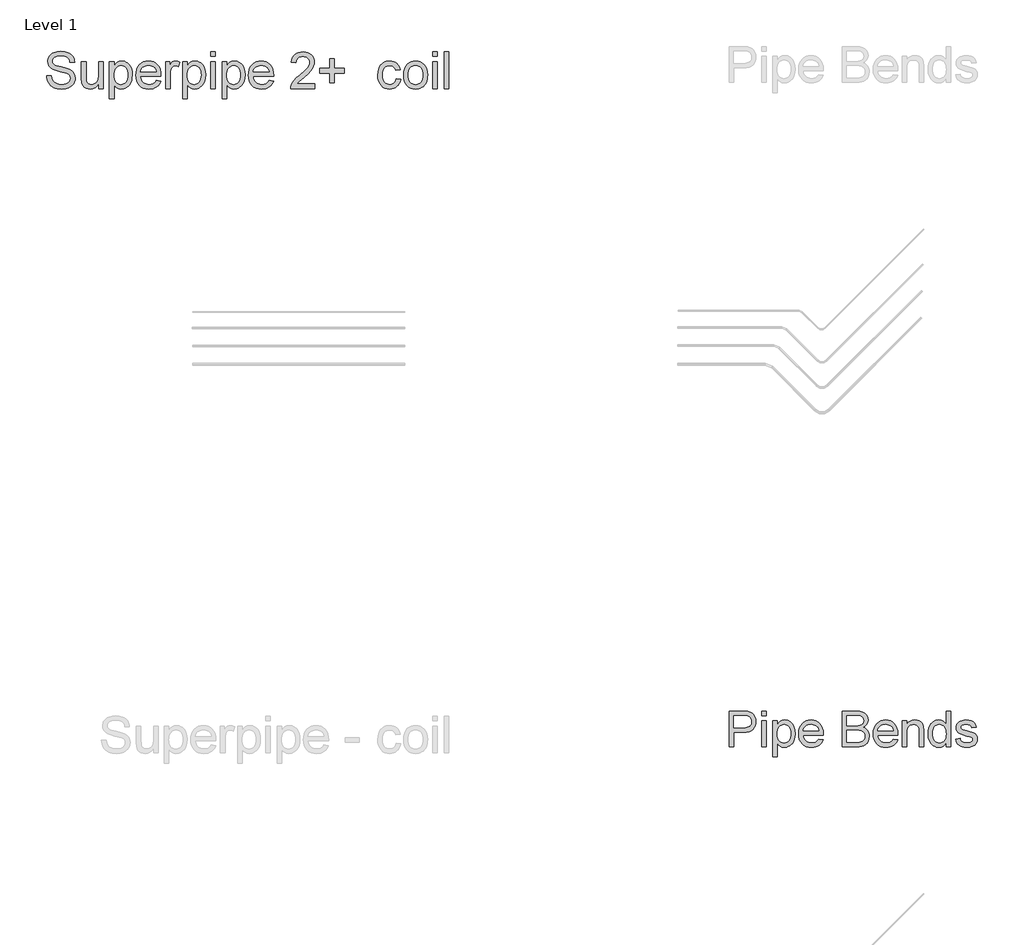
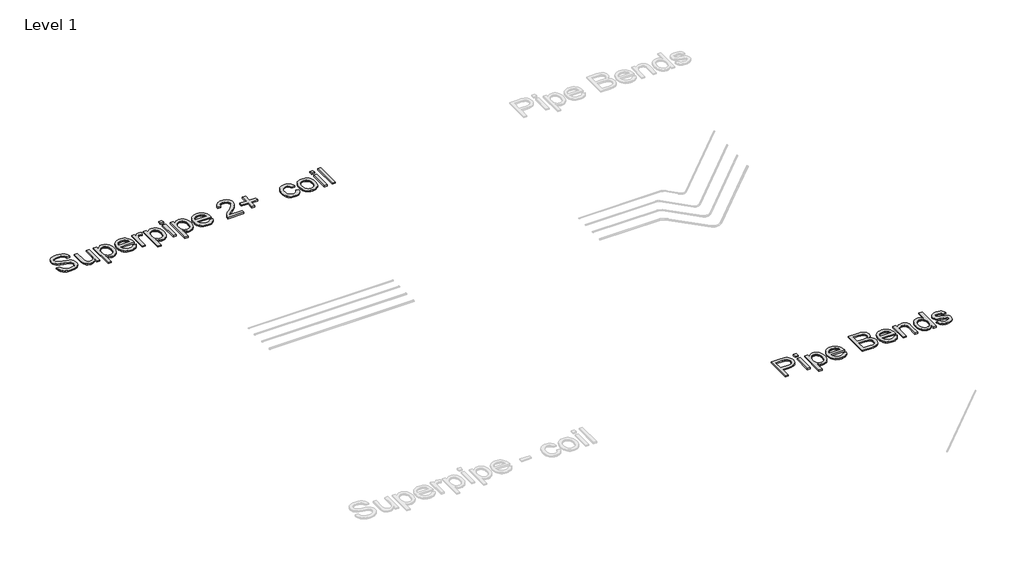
# One storey, part 10 of 58: 2 proxies.
"""IFC4 building model written with IfcOpenShell, lengths in millimetres."""

import ifcopenshell
import ifcopenshell.guid

model = None  # the IFC model being written
_history = None  # IfcOwnerHistory: only IFC2X3 demands one
_inside = {}  # id of a spatial element -> (the spatial element, [elements in it])
_under = {}  # id of a project, library or spatial element -> (it, [spatial elements below it])
_declared = {}  # id of a project -> (the project, [libraries it declares])
_typed = {}  # id of a type object -> (the type object, [elements of that type])
_made_of = {}  # id of a material, layer set ... -> (it, [elements and type objects made of it])


def new_model(schema):
    """Start an empty IFC model of exactly this schema.

    Asked for "IFC4X3", IfcOpenShell would pick the latest addendum, in which some entities
    have other attributes; the version numbers below select the first issue.
    IFC2X3 requires an IfcOwnerHistory on every rooted entity: one is made here for all.
    """
    global model, _history
    if schema == "IFC4X3":
        model = ifcopenshell.file(schema_version=(4, 3, 0, 0))
    else:
        model = ifcopenshell.file(schema=schema)
    _inside.clear()
    _under.clear()
    _declared.clear()
    _typed.clear()
    _made_of.clear()
    _history = None
    if model.schema == "IFC2X3":
        org = make("IfcOrganization", Name="unknown")
        user = make(
            "IfcPersonAndOrganization",
            ThePerson=make("IfcPerson", FamilyName="unknown"),
            TheOrganization=org,
        )
        app = make(
            "IfcApplication",
            ApplicationDeveloper=org,
            Version="unknown",
            ApplicationFullName="unknown",
            ApplicationIdentifier="unknown",
        )
        _history = make(
            "IfcOwnerHistory",
            OwningUser=user,
            OwningApplication=app,
            ChangeAction="ADDED",
            CreationDate=0,
        )
    return model


def make(cls, **values):
    """One entity of the class cls with the attributes given. An attribute that is None is left unset."""
    return model.create_entity(
        cls, **{name: value for name, value in values.items() if value is not None}
    )


def rooted(cls, **values):
    """An entity with a GlobalId (a new one), such as an element, a storey or a relation."""
    return make(cls, GlobalId=ifcopenshell.guid.new(), OwnerHistory=_history, **values)


def si_unit(unit_type, name, prefix=None):
    """IfcSIUnit, for example si_unit("LENGTHUNIT", "METRE", prefix="MILLI")."""
    return make("IfcSIUnit", UnitType=unit_type, Prefix=prefix, Name=name)


def assignment(units):
    """IfcUnitAssignment: the units of a project."""
    return None if units is None else make("IfcUnitAssignment", Units=units)


def point(xyz):
    """IfcCartesianPoint."""
    return None if xyz is None else make("IfcCartesianPoint", Coordinates=xyz)


def direction(xyz):
    """IfcDirection."""
    return None if xyz is None else make("IfcDirection", DirectionRatios=xyz)


def frame(location, z_axis=None, x_axis=None):
    """IfcAxis2Placement3D, a coordinate frame: its origin and axes. An axis left out is left unset."""
    return make(
        "IfcAxis2Placement3D",
        Location=point(location),
        Axis=direction(z_axis),
        RefDirection=direction(x_axis),
    )


def origin():
    """The frame at (0, 0, 0) with its axes left unset."""
    return frame((0.0, 0.0, 0.0))


def place(relative_to, where):
    """IfcLocalPlacement: puts the frame where relative to a parent placement (None: the world)."""
    return make(
        "IfcLocalPlacement", PlacementRelTo=relative_to, RelativePlacement=where
    )


def context(
    kind, dimensions, precision=None, world=None, true_north=None, identifier=None
):
    """IfcGeometricRepresentationContext, for example the 3D "Model" context."""
    return make(
        "IfcGeometricRepresentationContext",
        ContextIdentifier=identifier,
        ContextType=kind,
        CoordinateSpaceDimension=dimensions,
        Precision=precision,
        WorldCoordinateSystem=world,
        TrueNorth=true_north,
    )


def project(units=None, contexts=None):
    """IfcProject with its units and contexts."""
    return rooted(
        "IfcProject",
        Name="project",
        RepresentationContexts=contexts,
        UnitsInContext=assignment(units),
    )


def spatial(cls, under=None, at=None, **own):
    """A site, building, storey or space (cls), placed at a placement, below another one or the project."""
    s = rooted(cls, ObjectPlacement=at, **own)
    if under is not None:
        _under.setdefault(under.id(), (under, []))[1].append(s)
    return s


def polyline(points):
    """IfcPolyline through the points."""
    return make("IfcPolyline", Points=[point(p) for p in points])


def outline(outer, holes=None, kind="AREA"):
    """IfcArbitraryClosedProfileDef: a profile drawn as a closed curve; with holes, ...WithVoids."""
    if holes is None:
        return make("IfcArbitraryClosedProfileDef", ProfileType=kind, OuterCurve=outer)
    return make(
        "IfcArbitraryProfileDefWithVoids",
        ProfileType=kind,
        OuterCurve=outer,
        InnerCurves=holes,
    )


def extrude(swept, where, along, depth):
    """IfcExtrudedAreaSolid: the profile swept, set in the frame where, extruded along a direction by depth."""
    return make(
        "IfcExtrudedAreaSolid",
        SweptArea=swept,
        Position=where,
        ExtrudedDirection=direction(along),
        Depth=depth,
    )


def shape(context_of_items, identifier, shape_type, items):
    """IfcShapeRepresentation: the items that make up one representation, for example the "Body"."""
    return make(
        "IfcShapeRepresentation",
        ContextOfItems=context_of_items,
        RepresentationIdentifier=identifier,
        RepresentationType=shape_type,
        Items=items,
    )


def made_of(thing, what):
    """Note that an element or type object is made of a material, layer set ...; save() writes the relation."""
    if what is not None:
        _made_of.setdefault(what.id(), (what, []))[1].append(thing)
    return thing


def element(
    cls,
    number,
    at=None,
    inside=None,
    cuts=None,
    type_object=None,
    material=None,
    context=None,
    identifier="Body",
    shape_type=None,
    held_by="IfcProductDefinitionShape",
    body=None,
    shapes=None,
    **own,
):
    """One element of the class cls, such as IfcWall. Its Tag is "e" and its number.

    at: its placement. inside: the storey or other place that contains it. cuts: it is an
    opening in that element (IfcRelVoidsElement). A single representation is given by context,
    identifier, shape_type and body (its items); several are given by shapes. held_by: the class
    of the entity that holds the representations. save() writes the other relations.
    """
    e = rooted(cls, Tag="e%d" % number, ObjectPlacement=at, **own)
    if body is not None:
        shapes = [shape(context, identifier, shape_type, body)]
    if shapes is not None:
        e.Representation = make(held_by, Representations=shapes)
    if inside is not None:
        _inside.setdefault(inside.id(), (inside, []))[1].append(e)
    if cuts is not None:
        rooted(
            "IfcRelVoidsElement", RelatingBuildingElement=cuts, RelatedOpeningElement=e
        )
    if type_object is not None:
        _typed.setdefault(type_object.id(), (type_object, []))[1].append(e)
    return made_of(e, material)


def aggregate(whole, parts):
    """IfcRelAggregates: a whole, such as a stair, and the parts it consists of."""
    return rooted("IfcRelAggregates", RelatingObject=whole, RelatedObjects=parts)


def save(model, path):
    """Write the relations noted so far, then the file.

    IfcRelAggregates (storeys below a building ...), IfcRelContainedInSpatialStructure (elements
    in a storey), IfcRelDefinesByType, IfcRelAssociatesMaterial and IfcRelDeclares: one each for
    every whole, place, type object, material and project.
    """
    for whole, parts in _under.values():
        aggregate(whole, parts)
    for where, things in _inside.values():
        rooted(
            "IfcRelContainedInSpatialStructure",
            RelatedElements=things,
            RelatingStructure=where,
        )
    for kind, things in _typed.values():
        rooted("IfcRelDefinesByType", RelatedObjects=things, RelatingType=kind)
    for what, things in _made_of.values():
        rooted("IfcRelAssociatesMaterial", RelatedObjects=things, RelatingMaterial=what)
    for by, libraries in _declared.values():
        rooted("IfcRelDeclares", RelatingContext=by, RelatedDefinitions=libraries)
    model.write(path)


model = new_model("IFC4")

# Units and contexts
model_context = context("Model", 3, world=origin())
ifc_project = project(units=[si_unit("LENGTHUNIT", "METRE", prefix="MILLI")], contexts=[model_context])

# Site, building, storey
site = spatial("IfcSite", under=ifc_project)
building = spatial("IfcBuilding", under=site)
storey = spatial("IfcBuildingStorey", under=building, Name="Level 1", Elevation=27.3876384)

# Proxies
placement = place(None, origin())
element("IfcBuildingElementProxy", 1, Name="600mm Arial", ObjectType="600mm Arial", at=placement, inside=storey, context=model_context, shape_type="SweptSolid", body=[
    extrude(outline(polyline([(-16126.3023056, 25980.7797217), (-16050.9600729, 25980.7797217), (-16042.3148461, 25938.969933), (-16026.6798613, 25905.3639127), (-16002.289285, 25878.6924681), (-15967.3772836, 25857.6864061), (-15924.7029722, 25844.0563782), (-15877.0254656, 25839.5130356), (-15835.05013, 25842.9527322), (-15798.2987187, 25853.2718222), (-15768.5186711, 25869.6057828), (-15747.4574269, 25891.0900913), (-15734.931045, 25915.7565791), (-15730.7555843, 25941.6370774), (-15733.8825813, 25966.8553882), (-15743.2635722, 25988.6523964), (-15762.3198595, 26007.2488313), (-15794.4727459, 26022.865422), (-15904.1751569, 26051.633794), (-15976.1880574, 26070.6716873), (-16022.2652773, 26088.7898755), (-16059.7708467, 26114.136945), (-16086.3503209, 26144.8550916), (-16102.1876408, 26180.2821277), (-16107.4667474, 26219.7558658), (-16105.8342711, 26242.192069), (-16100.936842, 26263.8833111), (-16092.7744602, 26284.8295922), (-16081.3471257, 26305.0309123), (-16066.7835973, 26323.6641353), (-16049.2126335, 26339.9061254), (-16028.6342344, 26353.7568825), (-16005.0483999, 26365.2164067), (-15952.0366044, 26380.6122682), (-15893.3594262, 26385.744222), (-15829.7894174, 26380.3731449), (-15774.1656598, 26364.2599135), (-15749.8302658, 26352.2577634), (-15728.474716, 26337.7356216), (-15710.0990103, 26320.6934882), (-15694.7031488, 26301.1313631), (-15682.4066931, 26279.6194635), (-15673.3292049, 26256.7280063), (-15667.4706841, 26232.4569917), (-15664.8311308, 26206.8064196), (-15740.1733634, 26206.8064196), (-15745.2133468, 26230.847508), (-15754.0057264, 26251.7615994), (-15766.5505025, 26269.5486938), (-15782.8476749, 26284.2087914), (-15803.2007462, 26295.6683155), (-15827.9132193, 26303.8536899), (-15856.9850939, 26308.7649145), (-15890.4163702, 26310.4019894), (-15924.9145043, 26308.7833086), (-15954.3910492, 26303.9272663), (-15978.8460048, 26295.8338624), (-15998.2793712, 26284.5030969), (-16013.0866215, 26270.8822661), (-16023.6632289, 26255.9186659), (-16030.0091933, 26239.6122965), (-16032.1245148, 26221.9631578), (-16030.6253957, 26206.7788284), (-16026.1280383, 26193.0108447), (-16018.6324426, 26180.6592068), (-16008.1386087, 26169.7239145), (-15991.6207071, 26159.3680363), (-15965.6114501, 26148.9017935), (-15885.1188695, 26127.6382142), (-15802.051115, 26107.4414927), (-15751.7984345, 26089.8199451), (-15708.8482115, 26062.4863129), (-15692.242938, 26046.4190667), (-15678.884223, 26028.7515339), (-15668.6157168, 26009.5756849), (-15661.2810696, 25988.9834902), (-15655.4133517, 25943.5500638), (-15657.1010104, 25919.9826235), (-15662.1639863, 25897.1049619), (-15670.6022796, 25874.9170791), (-15682.4158902, 25853.418975), (-15697.3978844, 25833.4429827), (-15715.3413287, 25815.8214351), (-15736.2462231, 25800.5543323), (-15760.1125676, 25787.6416743), (-15786.2459848, 25777.3731681), (-15813.9520976, 25770.0385208), (-15874.0824097, 25764.170803), (-15912.6226472, 25765.7526955), (-15947.897932, 25770.4983733), (-15979.9082641, 25778.4078362), (-16008.6536435, 25789.4810842), (-16034.3088141, 25803.7365115), (-16057.04852, 25821.1925122), (-16076.872761, 25841.8490863), (-16093.7815372, 25865.7062336), (-16107.4023681, 25891.9914022), (-16117.3627731, 25919.9320397), (-16123.6627522, 25949.5281462), (-16126.3023056, 25980.7797217)])), frame((0.0, 0.0, 27.3876384), z_axis=(0.0, 0.0, 1.0), x_axis=(1.0, 0.0, 0.0)), (0.0, 0.0, 1.0), 30.0),
    extrude(outline(polyline([(-15269.2844096, 25773.588582), (-15269.2844096, 25849.6665786), (-15296.5444654, 25812.2621768), (-15328.2926816, 25785.5447469), (-15364.5290581, 25769.5142889), (-15405.253595, 25764.170803), (-15441.949824, 25767.9231993), (-15476.1076673, 25779.1803884), (-15504.7656747, 25796.1029601), (-15524.9623962, 25816.8515047), (-15538.555636, 25842.0514213), (-15547.4031979, 25872.3281096), (-15551.8177819, 25942.3728414), (-15551.8177819, 26216.2241986), (-15476.4755493, 26216.2241986), (-15476.4755493, 25977.8366658), (-15475.3351151, 25930.1591592), (-15471.9138125, 25901.0229052), (-15460.932535, 25875.3999242), (-15442.1153709, 25855.9205726), (-15416.7131192, 25843.6149198), (-15385.9765785, 25839.5130356), (-15353.4742042, 25843.7068903), (-15323.0687573, 25856.2884546), (-15297.9975993, 25876.0989), (-15281.4980918, 25901.9793984), (-15272.3378302, 25937.4248286), (-15269.2844096, 25985.9300697), (-15269.2844096, 26216.2241986), (-15193.942177, 26216.2241986), (-15193.942177, 25773.588582), (-15269.2844096, 25773.588582)])), frame((0.0, 0.0, 27.3876384), z_axis=(0.0, 0.0, 1.0), x_axis=(1.0, 0.0, 0.0)), (0.0, 0.0, 1.0), 30.0),
    extrude(outline(polyline([(-15090.3466071, 25604.0685587), (-15090.3466071, 26216.2241986), (-15015.0043745, 26216.2241986), (-15015.0043745, 26142.353494), (-14990.4298572, 26178.7922056), (-14962.912284, 26204.8198568), (-14930.832974, 26220.4364475), (-14892.5732465, 26225.6419777), (-14866.297275, 26223.8209618), (-14841.6215902, 26218.3579142), (-14818.5461921, 26209.2528348), (-14797.0710806, 26196.5057237), (-14777.6653053, 26180.4476746), (-14760.7979159, 26161.4097814), (-14746.4689121, 26139.3920439), (-14734.6782942, 26114.3944624), (-14718.8961566, 26058.8810693), (-14713.6354441, 25998.2909047), (-14719.5767383, 25933.8563732), (-14727.0033561, 25904.1912889), (-14737.400621, 25876.2276587), (-14750.6259787, 25850.6966482), (-14766.536875, 25828.3294229), (-14785.1333098, 25809.1259828), (-14806.4152833, 25793.0863278), (-14829.3389301, 25780.4357857), (-14852.8603852, 25771.3996842), (-14876.9796485, 25765.9780233), (-14901.69672, 25764.170803), (-14936.3328099, 25769.0084512), (-14967.2532916, 25783.5213959), (-14993.7224011, 25805.4287687), (-15015.0043745, 25832.4497013), (-15015.0043745, 25604.0685587), (-15090.3466071, 25604.0685587)]), holes=[polyline([(-15015.0043745, 25991.3747232), (-15012.967228, 25955.0647703), (-15006.8557883, 25923.8315889), (-14996.6700556, 25897.675179), (-14982.4100298, 25876.5955407), (-14965.2437362, 25860.3719447), (-14946.3392001, 25848.7836619), (-14925.6964217, 25841.8306922), (-14903.3154008, 25839.5130356), (-14880.6124832, 25841.9134656), (-14859.5926257, 25849.1147557), (-14840.2558283, 25861.1169057), (-14822.602091, 25877.9199159), (-14807.8914098, 25899.7629093), (-14797.3837803, 25926.8850094), (-14791.0792026, 25959.2862162), (-14788.9776767, 25996.9665295), (-14791.0286188, 26032.9637827), (-14797.1814452, 26064.1417818), (-14807.4361558, 26090.5005268), (-14821.7927507, 26112.0400176), (-14839.000431, 26128.7786484), (-14857.808398, 26140.7348132), (-14878.2166517, 26147.9085121), (-14900.225192, 26150.2997451), (-14922.1647545, 26147.7567608), (-14942.807533, 26140.1278079), (-14962.1535274, 26127.4128865), (-14980.2027378, 26109.6119964), (-14995.4284539, 26086.9642611), (-15006.3039653, 26059.7088038), (-15012.8292722, 26027.8456245), (-15015.0043745, 25991.3747232)])]), frame((0.0, 0.0, 27.3876384), z_axis=(0.0, 0.0, 1.0), x_axis=(1.0, 0.0, 0.0)), (0.0, 0.0, 1.0), 30.0),
    extrude(outline(polyline([(-14318.9716397, 25905.4374891), (-14245.100935, 25896.01971), (-14256.4271019, 25866.4328006), (-14271.7171974, 25840.3591642), (-14290.9712213, 25817.7988008), (-14314.1891737, 25798.7517105), (-14341.1319313, 25783.6225635), (-14371.5603709, 25772.8160299), (-14405.4744923, 25766.3321097), (-14442.8742956, 25764.170803), (-14489.6229002, 25767.9002067), (-14531.2763391, 25779.0884179), (-14567.8346123, 25797.7354365), (-14599.29772, 25823.8412626), (-14624.5988042, 25856.6793292), (-14642.6710072, 25895.5230693), (-14653.514329, 25940.3724831), (-14657.1287696, 25991.2275704), (-14653.4775408, 26043.8071046), (-14642.5238544, 26090.1510389), (-14624.2677104, 26130.2593734), (-14598.7091088, 26164.1321081), (-14567.3287746, 26191.0426761), (-14531.6074329, 26210.2645103), (-14491.5450836, 26221.7976109), (-14447.1417268, 26225.6419777), (-14404.1685112, 26221.8068079), (-14365.3063769, 26210.3012985), (-14330.555324, 26191.1254495), (-14299.9153523, 26164.2792609), (-14274.9039752, 26130.4801026), (-14257.0387058, 26090.4453445), (-14246.3195441, 26044.1749865), (-14242.7464903, 25991.6690288), (-14243.1879486, 25971.3619427), (-14581.786537, 25971.3619427), (-14577.4225368, 25941.2967866), (-14568.7451203, 25914.9656328), (-14555.7542873, 25892.3684812), (-14538.450038, 25873.5053319), (-14517.7888654, 25858.6337023), (-14494.7272628, 25848.0111097), (-14469.2652303, 25841.6375541), (-14441.4027676, 25839.5130356), (-14401.3036302, 25843.4493729), (-14367.532063, 25855.258385), (-14340.0880662, 25875.6758357), (-14318.9716397, 25905.4374891)]), holes=[polyline([(-14581.786537, 26046.7041753), (-14318.0887229, 26046.7041753), (-14328.2790541, 26086.5090071), (-14337.0438427, 26102.162386), (-14348.2550465, 26114.9830736), (-14368.8012559, 26130.4341174), (-14392.1801567, 26141.4705772), (-14418.3917488, 26148.0924531), (-14447.4360324, 26150.2997451), (-14473.9281345, 26148.5385101), (-14498.2221418, 26143.2548049), (-14520.3180541, 26134.4486296), (-14540.2158716, 26122.1199843), (-14556.9131156, 26106.8390859), (-14569.4073079, 26089.1761516), (-14577.6984483, 26069.1311814), (-14581.786537, 26046.7041753)])]), frame((0.0, 0.0, 27.3876384), z_axis=(0.0, 0.0, 1.0), x_axis=(1.0, 0.0, 0.0)), (0.0, 0.0, 1.0), 30.0),
    extrude(outline(polyline([(-14167.4042576, 25773.588582), (-14167.4042576, 26216.2241986), (-14101.4798041, 26216.2241986), (-14101.4798041, 26150.7412035), (-14077.126016, 26188.7066254), (-14054.6852143, 26211.0738507), (-14032.1708362, 26221.999946), (-14007.5963189, 26225.6419777), (-13970.0723554, 26219.8294422), (-13931.9597807, 26202.3918356), (-13957.1229092, 26134.8487013), (-13983.6104128, 26146.4369842), (-14010.0979165, 26150.2997451), (-14032.5939005, 26146.584137), (-14052.6986515, 26135.4373125), (-14068.9406416, 26117.7054003), (-14079.8483428, 26094.234529), (-14089.0086045, 26052.1488288), (-14092.062025, 26006.2371558), (-14092.062025, 25773.588582), (-14167.4042576, 25773.588582)])), frame((0.0, 0.0, 27.3876384), z_axis=(0.0, 0.0, 1.0), x_axis=(1.0, 0.0, 0.0)), (0.0, 0.0, 1.0), 30.0),
    extrude(outline(polyline([(-13884.8708853, 25604.0685587), (-13884.8708853, 26216.2241986), (-13809.5286527, 26216.2241986), (-13809.5286527, 26142.353494), (-13784.9541355, 26178.7922056), (-13757.4365622, 26204.8198568), (-13725.3572522, 26220.4364475), (-13687.0975247, 26225.6419777), (-13660.8215532, 26223.8209618), (-13636.1458684, 26218.3579142), (-13613.0704703, 26209.2528348), (-13591.5953588, 26196.5057237), (-13572.1895835, 26180.4476746), (-13555.3221941, 26161.4097814), (-13540.9931904, 26139.3920439), (-13529.2025724, 26114.3944624), (-13513.4204348, 26058.8810693), (-13508.1597223, 25998.2909047), (-13514.1010165, 25933.8563732), (-13521.5276343, 25904.1912889), (-13531.9248992, 25876.2276587), (-13545.1502569, 25850.6966482), (-13561.0611532, 25828.3294229), (-13579.657588, 25809.1259828), (-13600.9395615, 25793.0863278), (-13623.8632083, 25780.4357857), (-13647.3846634, 25771.3996842), (-13671.5039267, 25765.9780233), (-13696.2209982, 25764.170803), (-13730.8570881, 25769.0084512), (-13761.7775698, 25783.5213959), (-13788.2466793, 25805.4287687), (-13809.5286527, 25832.4497013), (-13809.5286527, 25604.0685587), (-13884.8708853, 25604.0685587)]), holes=[polyline([(-13809.5286527, 25991.3747232), (-13807.4915062, 25955.0647703), (-13801.3800665, 25923.8315889), (-13791.1943338, 25897.675179), (-13776.934308, 25876.5955407), (-13759.7680144, 25860.3719447), (-13740.8634783, 25848.7836619), (-13720.2206999, 25841.8306922), (-13697.839679, 25839.5130356), (-13675.1367614, 25841.9134656), (-13654.1169039, 25849.1147557), (-13634.7801065, 25861.1169057), (-13617.1263693, 25877.9199159), (-13602.415688, 25899.7629093), (-13591.9080585, 25926.8850094), (-13585.6034808, 25959.2862162), (-13583.5019549, 25996.9665295), (-13585.552897, 26032.9637827), (-13591.7057234, 26064.1417818), (-13601.960434, 26090.5005268), (-13616.3170289, 26112.0400176), (-13633.5247092, 26128.7786484), (-13652.3326762, 26140.7348132), (-13672.7409299, 26147.9085121), (-13694.7494702, 26150.2997451), (-13716.6890327, 26147.7567608), (-13737.3318112, 26140.1278079), (-13756.6778056, 26127.4128865), (-13774.727016, 26109.6119964), (-13789.9527321, 26086.9642611), (-13800.8282435, 26059.7088038), (-13807.3535504, 26027.8456245), (-13809.5286527, 25991.3747232)])]), frame((0.0, 0.0, 27.3876384), z_axis=(0.0, 0.0, 1.0), x_axis=(1.0, 0.0, 0.0)), (0.0, 0.0, 1.0), 30.0),
    extrude(outline(polyline([(-13423.3997106, 26300.9842103), (-13423.3997106, 26376.3264429), (-13348.057478, 26376.3264429), (-13348.057478, 26300.9842103), (-13423.3997106, 26300.9842103)])), frame((0.0, 0.0, 27.3876384), z_axis=(0.0, 0.0, 1.0), x_axis=(1.0, 0.0, 0.0)), (0.0, 0.0, 1.0), 30.0),
    extrude(outline(polyline([(-13423.3997106, 25773.588582), (-13423.3997106, 26216.2241986), (-13348.057478, 26216.2241986), (-13348.057478, 25773.588582), (-13423.3997106, 25773.588582)])), frame((0.0, 0.0, 27.3876384), z_axis=(0.0, 0.0, 1.0), x_axis=(1.0, 0.0, 0.0)), (0.0, 0.0, 1.0), 30.0),
    extrude(outline(polyline([(-13235.0441291, 25604.0685587), (-13235.0441291, 26216.2241986), (-13159.7018965, 26216.2241986), (-13159.7018965, 26142.353494), (-13135.1273792, 26178.7922056), (-13107.6098059, 26204.8198568), (-13075.530496, 26220.4364475), (-13037.2707685, 26225.6419777), (-13010.994797, 26223.8209618), (-12986.3191121, 26218.3579142), (-12963.243714, 26209.2528348), (-12941.7686025, 26196.5057237), (-12922.3628273, 26180.4476746), (-12905.4954378, 26161.4097814), (-12891.1664341, 26139.3920439), (-12879.3758161, 26114.3944624), (-12863.5936785, 26058.8810693), (-12858.332966, 25998.2909047), (-12864.2742602, 25933.8563732), (-12871.700878, 25904.1912889), (-12882.0981429, 25876.2276587), (-12895.3235006, 25850.6966482), (-12911.2343969, 25828.3294229), (-12929.8308318, 25809.1259828), (-12951.1128052, 25793.0863278), (-12974.036452, 25780.4357857), (-12997.5579071, 25771.3996842), (-13021.6771704, 25765.9780233), (-13046.3942419, 25764.170803), (-13081.0303318, 25769.0084512), (-13111.9508135, 25783.5213959), (-13138.419923, 25805.4287687), (-13159.7018965, 25832.4497013), (-13159.7018965, 25604.0685587), (-13235.0441291, 25604.0685587)]), holes=[polyline([(-13159.7018965, 25991.3747232), (-13157.6647499, 25955.0647703), (-13151.5533103, 25923.8315889), (-13141.3675775, 25897.675179), (-13127.1075517, 25876.5955407), (-13109.9412581, 25860.3719447), (-13091.0367221, 25848.7836619), (-13070.3939436, 25841.8306922), (-13048.0129227, 25839.5130356), (-13025.3100051, 25841.9134656), (-13004.2901476, 25849.1147557), (-12984.9533502, 25861.1169057), (-12967.299613, 25877.9199159), (-12952.5889317, 25899.7629093), (-12942.0813022, 25926.8850094), (-12935.7767245, 25959.2862162), (-12933.6751986, 25996.9665295), (-12935.7261407, 26032.9637827), (-12941.8789671, 26064.1417818), (-12952.1336777, 26090.5005268), (-12966.4902726, 26112.0400176), (-12983.6979529, 26128.7786484), (-13002.5059199, 26140.7348132), (-13022.9141736, 26147.9085121), (-13044.922714, 26150.2997451), (-13066.8622764, 26147.7567608), (-13087.5050549, 26140.1278079), (-13106.8510493, 26127.4128865), (-13124.9002597, 26109.6119964), (-13140.1259758, 26086.9642611), (-13151.0014873, 26059.7088038), (-13157.5267942, 26027.8456245), (-13159.7018965, 25991.3747232)])]), frame((0.0, 0.0, 27.3876384), z_axis=(0.0, 0.0, 1.0), x_axis=(1.0, 0.0, 0.0)), (0.0, 0.0, 1.0), 30.0),
    extrude(outline(polyline([(-12463.6691616, 25905.4374891), (-12389.7984569, 25896.01971), (-12401.1246239, 25866.4328006), (-12416.4147193, 25840.3591642), (-12435.6687432, 25817.7988008), (-12458.8866956, 25798.7517105), (-12485.8294533, 25783.6225635), (-12516.2578928, 25772.8160299), (-12550.1720142, 25766.3321097), (-12587.5718176, 25764.170803), (-12634.3204221, 25767.9002067), (-12675.973861, 25779.0884179), (-12712.5321343, 25797.7354365), (-12743.9952419, 25823.8412626), (-12769.2963261, 25856.6793292), (-12787.3685291, 25895.5230693), (-12798.2118509, 25940.3724831), (-12801.8262915, 25991.2275704), (-12798.1750627, 26043.8071046), (-12787.2213763, 26090.1510389), (-12768.9652323, 26130.2593734), (-12743.4066307, 26164.1321081), (-12712.0262965, 26191.0426761), (-12676.3049548, 26210.2645103), (-12636.2426055, 26221.7976109), (-12591.8392487, 26225.6419777), (-12548.8660331, 26221.8068079), (-12510.0038989, 26210.3012985), (-12475.2528459, 26191.1254495), (-12444.6128742, 26164.2792609), (-12419.6014971, 26130.4801026), (-12401.7362277, 26090.4453445), (-12391.0170661, 26044.1749865), (-12387.4440122, 25991.6690288), (-12387.8854706, 25971.3619427), (-12726.4840589, 25971.3619427), (-12722.1200588, 25941.2967866), (-12713.4426422, 25914.9656328), (-12700.4518092, 25892.3684812), (-12683.1475599, 25873.5053319), (-12662.4863873, 25858.6337023), (-12639.4247848, 25848.0111097), (-12613.9627522, 25841.6375541), (-12586.1002896, 25839.5130356), (-12546.0011521, 25843.4493729), (-12512.2295849, 25855.258385), (-12484.7855881, 25875.6758357), (-12463.6691616, 25905.4374891)]), holes=[polyline([(-12726.4840589, 26046.7041753), (-12462.7862448, 26046.7041753), (-12472.9765761, 26086.5090071), (-12481.7413646, 26102.162386), (-12492.9525684, 26114.9830736), (-12513.4987778, 26130.4341174), (-12536.8776786, 26141.4705772), (-12563.0892708, 26148.0924531), (-12592.1335543, 26150.2997451), (-12618.6256565, 26148.5385101), (-12642.9196637, 26143.2548049), (-12665.0155761, 26134.4486296), (-12684.9133935, 26122.1199843), (-12701.6106375, 26106.8390859), (-12714.1048298, 26089.1761516), (-12722.3959703, 26069.1311814), (-12726.4840589, 26046.7041753)])]), frame((0.0, 0.0, 27.3876384), z_axis=(0.0, 0.0, 1.0), x_axis=(1.0, 0.0, 0.0)), (0.0, 0.0, 1.0), 30.0),
    extrude(outline(polyline([(-11709.3639187, 25848.9308147), (-11709.3639187, 25773.588582), (-12104.9106399, 25773.588582), (-12103.2551709, 25800.1128739), (-12096.817236, 25825.5335198), (-12078.2391952, 25866.1292979), (-12051.0527158, 25905.5110655), (-12011.7261305, 25946.7322431), (-11956.7277722, 25992.8462512), (-11875.4258513, 26065.0614868), (-11826.6446987, 26118.3675879), (-11812.4168626, 26140.146202), (-11802.2541224, 26161.6305106), (-11796.1564784, 26182.8205135), (-11794.1239304, 26203.7162108), (-11796.0415153, 26223.3749049), (-11801.79427, 26241.4425094), (-11811.3821945, 26257.9190243), (-11824.8052888, 26272.8044495), (-11841.3185918, 26285.1330949), (-11860.1771426, 26293.9392701), (-11881.3809411, 26299.2229753), (-11904.9299873, 26300.9842103), (-11929.7390294, 26299.264362), (-11951.9269122, 26294.104817), (-11971.4936358, 26285.5055754), (-11988.4392002, 26273.4666371), (-12002.1474031, 26258.3926723), (-12012.002042, 26240.6883513), (-12018.003117, 26220.353674), (-12020.1506282, 26197.3886405), (-12095.4928608, 26206.8064196), (-12089.0135392, 26245.7007435), (-12077.2275197, 26279.6838428), (-12060.1348025, 26308.7557175), (-12037.7353876, 26332.9163675), (-12010.5443096, 26351.9082755), (-11979.0766034, 26365.4739241), (-11943.3322691, 26373.6133132), (-11903.3113065, 26376.3264429), (-11862.931659, 26373.3098106), (-11826.9941866, 26364.2599135), (-11795.4988893, 26349.1767517), (-11768.4457671, 26328.0603252), (-11746.7177368, 26302.4741324), (-11731.1977151, 26273.9816719), (-11721.8857021, 26242.5829436), (-11718.7816977, 26208.2779475), (-11722.1294239, 26172.2439061), (-11732.1726024, 26136.8352641), (-11749.996485, 26100.8196168), (-11776.6863238, 26062.9645595), (-11819.2318765, 26017.7702563), (-11884.6229012, 25959.7368716), (-11971.2958992, 25887.2641186), (-12005.2881956, 25848.9308147), (-11709.3639187, 25848.9308147)])), frame((0.0, 0.0, 27.3876384), z_axis=(0.0, 0.0, 1.0), x_axis=(1.0, 0.0, 0.0)), (0.0, 0.0, 1.0), 30.0),
    extrude(outline(polyline([(-11464.5016627, 25867.7663728), (-11464.5016627, 26027.8686171), (-11624.603907, 26027.8686171), (-11624.603907, 26103.2108497), (-11464.5016627, 26103.2108497), (-11464.5016627, 26263.313094), (-11389.1594301, 26263.313094), (-11389.1594301, 26103.2108497), (-11229.0571858, 26103.2108497), (-11229.0571858, 26027.8686171), (-11389.1594301, 26027.8686171), (-11389.1594301, 25867.7663728), (-11464.5016627, 25867.7663728)])), frame((0.0, 0.0, 27.3876384), z_axis=(0.0, 0.0, 1.0), x_axis=(1.0, 0.0, 0.0)), (0.0, 0.0, 1.0), 30.0),
    extrude(outline(polyline([(-10372.0392898, 25933.6908263), (-10296.6970572, 25924.2730473), (-10304.8916286, 25888.721851), (-10317.7031191, 25857.2633418), (-10335.1315286, 25829.8975199), (-10357.1768572, 25806.6243852), (-10382.9102028, 25788.050943), (-10411.4026633, 25774.7841985), (-10442.6542388, 25766.8241519), (-10476.6649292, 25764.170803), (-10518.9207749, 25767.8726155), (-10556.8080219, 25778.9780533), (-10590.3266702, 25797.4871162), (-10619.4767198, 25823.3998042), (-10643.0717512, 25856.2286737), (-10659.9253451, 25895.4862811), (-10670.0375015, 25941.1726264), (-10673.4082202, 25993.2877096), (-10667.650867, 26060.3342032), (-10660.4541755, 26090.5051253), (-10650.3788074, 26118.4411643), (-10637.3557847, 26143.5813002), (-10621.3161297, 26165.3645128), (-10602.2598424, 26183.7908022), (-10580.1869227, 26198.8601685), (-10556.0952505, 26210.57721), (-10530.9827058, 26218.9465254), (-10504.8492886, 26223.9681146), (-10477.6949988, 26225.6419777), (-10444.268321, 26223.3427152), (-10414.0330195, 26216.4449278), (-10386.9890944, 26204.9486155), (-10363.1365455, 26188.8537782), (-10342.8800432, 26168.528298), (-10326.6242575, 26144.3400568), (-10314.3691885, 26116.2890547), (-10306.1148363, 26084.3752916), (-10381.4570689, 26074.9575125), (-10395.123885, 26107.8277688), (-10416.4058584, 26131.3906106), (-10444.1257668, 26145.5724615), (-10477.1063876, 26150.2997451), (-10502.706376, 26147.9728915), (-10525.7955697, 26140.9923306), (-10546.3739688, 26129.3580625), (-10564.4415733, 26113.0700872), (-10579.1522546, 26091.7513256), (-10589.659884, 26065.0246986), (-10595.9644617, 26032.8902063), (-10598.0659876, 25995.3478487), (-10596.010447, 25957.2398726), (-10589.843825, 25924.7328998), (-10579.5661218, 25897.8269303), (-10565.1773373, 25876.5219643), (-10547.4684177, 25860.330558), (-10527.2303095, 25848.7652678), (-10504.4630125, 25841.8260936), (-10479.1665268, 25839.5130356), (-10440.1526412, 25845.2887829), (-10423.2806532, 25852.5084671), (-10408.1653017, 25862.6160249), (-10395.2296511, 25875.721821), (-10384.8967655, 25891.9362199), (-10377.1666451, 25911.2592217), (-10372.0392898, 25933.6908263)])), frame((0.0, 0.0, 27.3876384), z_axis=(0.0, 0.0, 1.0), x_axis=(1.0, 0.0, 0.0)), (0.0, 0.0, 1.0), 30.0),
    extrude(outline(polyline([(-10249.6081618, 25994.9063903), (-10245.5338687, 26052.2316022), (-10233.3109894, 26101.6289571), (-10212.9395239, 26143.0984551), (-10184.4194723, 26176.640096), (-10155.7062825, 26198.0784192), (-10124.0132487, 26213.3915073), (-10089.3403706, 26222.5793601), (-10051.6876484, 26225.6419777), (-10010.1215815, 26221.912574), (-9972.5378371, 26210.7243628), (-9938.9364154, 26192.0773442), (-9909.3173163, 26165.9715181), (-9885.1428707, 26133.2898014), (-9867.8754095, 26094.9151107), (-9857.5149328, 26050.8474462), (-9854.0614406, 26001.0868079), (-9855.5881509, 25960.7577441), (-9860.1682817, 25924.9720231), (-9867.8018331, 25893.7296446), (-9878.4888051, 25867.0306088), (-9892.0958404, 25843.9690062), (-9908.4895818, 25823.6389275), (-9927.6700293, 25806.0403725), (-9949.6371829, 25791.1733414), (-9973.535717, 25779.3597308), (-9998.510306, 25770.9214376), (-10024.5609498, 25765.8584616), (-10051.6876484, 25764.170803), (-10093.8607206, 25767.8864111), (-10131.7939528, 25779.0332356), (-10165.4873451, 25797.6112763), (-10194.9408973, 25823.6205334), (-10218.8578255, 25856.6195484), (-10235.9413457, 25896.1668628), (-10246.1914578, 25942.2624768), (-10249.6081618, 25994.9063903)]), holes=[polyline([(-10174.2659292, 25995.0535431), (-10172.0862284, 25958.5090654), (-10165.5471259, 25926.8666153), (-10154.6486218, 25900.1261928), (-10139.390716, 25878.2877979), (-10120.8310694, 25861.3238394), (-10100.0273426, 25849.2067262), (-10076.9795356, 25841.9364582), (-10051.6876484, 25839.5130356), (-10026.5245199, 25841.9502538), (-10003.5686834, 25849.2619085), (-9982.8201389, 25861.4479995), (-9964.2788863, 25878.5085271), (-9949.0209806, 25900.5630527), (-9938.1224765, 25927.731138), (-9931.583374, 25960.0127831), (-9929.4036732, 25997.4079879), (-9931.5971696, 26032.7936373), (-9938.1776588, 26063.6083529), (-9949.1451408, 26089.8521348), (-9964.4996155, 26111.5249828), (-9983.109846, 26128.4889413), (-10003.8445949, 26140.6060545), (-10026.7038624, 26147.8763225), (-10051.6876484, 26150.2997451), (-10076.9795356, 26147.8855195), (-10100.0273426, 26140.6428427), (-10120.8310694, 26128.5717148), (-10139.390716, 26111.6721356), (-10154.6486218, 26089.89812), (-10165.5471259, 26063.2036827), (-10172.0862284, 26031.5888238), (-10174.2659292, 25995.0535431)])]), frame((0.0, 0.0, 27.3876384), z_axis=(0.0, 0.0, 1.0), x_axis=(1.0, 0.0, 0.0)), (0.0, 0.0, 1.0), 30.0),
    extrude(outline(polyline([(-9769.3014289, 25773.588582), (-9769.3014289, 26216.2241986), (-9693.9591963, 26216.2241986), (-9693.9591963, 25773.588582), (-9769.3014289, 25773.588582)])), frame((0.0, 0.0, 27.3876384), z_axis=(0.0, 0.0, 1.0), x_axis=(1.0, 0.0, 0.0)), (0.0, 0.0, 1.0), 30.0),
    extrude(outline(polyline([(-9769.3014289, 26300.9842103), (-9769.3014289, 26376.3264429), (-9693.9591963, 26376.3264429), (-9693.9591963, 26300.9842103), (-9769.3014289, 26300.9842103)])), frame((0.0, 0.0, 27.3876384), z_axis=(0.0, 0.0, 1.0), x_axis=(1.0, 0.0, 0.0)), (0.0, 0.0, 1.0), 30.0),
    extrude(outline(polyline([(-9580.9458474, 25773.588582), (-9580.9458474, 26376.3264429), (-9505.6036148, 26376.3264429), (-9505.6036148, 25773.588582), (-9580.9458474, 25773.588582)])), frame((0.0, 0.0, 27.3876384), z_axis=(0.0, 0.0, 1.0), x_axis=(1.0, 0.0, 0.0)), (0.0, 0.0, 1.0), 30.0),
])
element("IfcBuildingElementProxy", 2, Name="600mm Arial", ObjectType="600mm Arial", at=placement, inside=storey, context=model_context, shape_type="SweptSolid", body=[
    extrude(outline(polyline([(-4890.0474702, 14934.3799222), (-4890.0474702, 15525.149153), (-4671.1051625, 15525.149153), (-4620.1195855, 15523.742903), (-4582.8359317, 15519.524153), (-4543.4789605, 15509.0133357), (-4511.081124, 15491.9039607), (-4484.9933836, 15467.4207876), (-4464.5667009, 15434.788576), (-4451.3695855, 15396.2969895), (-4446.9705471, 15354.2356914), (-4449.9407995, 15317.9706674), (-4458.8515567, 15284.6082876), (-4473.7028187, 15254.148552), (-4494.4945855, 15226.5914607), (-4523.0387562, 15203.7489126), (-4561.1472298, 15187.4328068), (-4608.8200062, 15177.6431433), (-4666.0570855, 15174.3799222), (-4816.2013163, 15174.3799222), (-4816.2013163, 14934.3799222), (-4890.0474702, 14934.3799222)]), holes=[polyline([(-4816.2013163, 15248.226076), (-4661.7301625, 15248.226076), (-4626.2133355, 15249.9207876), (-4596.2493932, 15255.0049222), (-4571.8383355, 15263.4784799), (-4552.9801625, 15275.3414607), (-4538.908648, 15290.2783597), (-4528.8575663, 15307.9736722), (-4522.8269173, 15328.4273982), (-4520.8167009, 15351.6395376), (-4525.5582875, 15384.8126145), (-4539.7830471, 15412.7933837), (-4561.7241529, 15433.851076), (-4589.6147779, 15446.2549222), (-4618.1003548, 15450.0409799), (-4663.4609317, 15451.3029991), (-4816.2013163, 15451.3029991), (-4816.2013163, 15248.226076)])]), frame((0.0, 0.0, 27.3876384), z_axis=(0.0, 0.0, 1.0), x_axis=(1.0, 0.0, 0.0)), (0.0, 0.0, 1.0), 30.0),
    extrude(outline(polyline([(-4354.6628548, 14934.3799222), (-4354.6628548, 15368.226076), (-4280.8167009, 15368.226076), (-4280.8167009, 14934.3799222), (-4354.6628548, 14934.3799222)])), frame((0.0, 0.0, 27.3876384), z_axis=(0.0, 0.0, 1.0), x_axis=(1.0, 0.0, 0.0)), (0.0, 0.0, 1.0), 30.0),
    extrude(outline(polyline([(-4354.6628548, 15451.3029991), (-4354.6628548, 15525.149153), (-4280.8167009, 15525.149153), (-4280.8167009, 15451.3029991), (-4354.6628548, 15451.3029991)])), frame((0.0, 0.0, 27.3876384), z_axis=(0.0, 0.0, 1.0), x_axis=(1.0, 0.0, 0.0)), (0.0, 0.0, 1.0), 30.0),
    extrude(outline(polyline([(-4170.0474702, 14768.226076), (-4170.0474702, 15368.226076), (-4096.2013163, 15368.226076), (-4096.2013163, 15295.8222299), (-4072.1147779, 15331.5373741), (-4045.143624, 15357.0481914), (-4013.7013163, 15372.3546818), (-3976.2013163, 15377.4568453), (-3950.4471096, 15375.6719895), (-3926.2614125, 15370.3174222), (-3903.644225, 15361.3931433), (-3882.5955471, 15348.899153), (-3863.5751144, 15333.1599703), (-3847.0426625, 15314.5001145), (-3832.9981913, 15292.9195857), (-3821.4417009, 15268.4183837), (-3805.9729509, 15214.007326), (-3800.8167009, 15154.6203068), (-3806.6400182, 15091.4652587), (-3813.9191649, 15062.3892371), (-3824.1099702, 15034.9808837), (-3837.0727105, 15009.9568453), (-3852.6676625, 14988.0337683), (-3870.8948259, 14969.211653), (-3891.7542009, 14953.4904991), (-3914.2226505, 14941.0911602), (-3937.2770375, 14932.2344895), (-3960.917362, 14926.9204871), (-3985.143624, 14925.149153), (-4019.0919413, 14929.8907395), (-4049.3984317, 14944.1154991), (-4075.3419413, 14965.5878549), (-4096.2013163, 14992.0722299), (-4096.2013163, 14768.226076), (-4170.0474702, 14768.226076)]), holes=[polyline([(-4096.2013163, 15147.8414607), (-4094.2046216, 15112.2525183), (-4088.2145375, 15081.6395376), (-4078.2310639, 15056.0025183), (-4064.2542009, 15035.3414607), (-4047.4287803, 15019.4400183), (-4028.8996336, 15008.0818453), (-4008.666761, 15001.2669414), (-3986.7301625, 14998.9953068), (-3964.4780591, 15001.3480712), (-3943.8755952, 15008.4063645), (-3924.9227706, 15020.1701866), (-3907.6195855, 15036.6395376), (-3893.2010158, 15058.0487924), (-3882.9020375, 15084.632326), (-3876.7226505, 15116.3901385), (-3874.6628548, 15153.3222299), (-3876.6730711, 15188.6046818), (-3882.7037202, 15219.163576), (-3892.7548019, 15244.9989126), (-3906.8263163, 15266.1106914), (-3923.6923019, 15282.5169414), (-3942.1267971, 15294.2356914), (-3962.1298019, 15301.2669414), (-3983.7013163, 15303.6106914), (-4005.2052226, 15301.1182034), (-4025.4380952, 15293.6407395), (-4044.3999341, 15281.1782996), (-4062.0907394, 15263.7308837), (-4077.0141168, 15241.5328669), (-4087.6736721, 15214.8186241), (-4094.0694053, 15183.5881554), (-4096.2013163, 15147.8414607)])]), frame((0.0, 0.0, 27.3876384), z_axis=(0.0, 0.0, 1.0), x_axis=(1.0, 0.0, 0.0)), (0.0, 0.0, 1.0), 30.0),
    extrude(outline(polyline([(-3413.9897779, 15063.6106914), (-3341.5859317, 15054.3799222), (-3352.6871937, 15025.3805232), (-3367.6736721, 14999.8246337), (-3386.5453668, 14977.7122539), (-3409.3022779, 14959.0433837), (-3435.7100303, 14944.2146578), (-3465.534249, 14933.6227107), (-3498.7749341, 14927.2675424), (-3535.4320855, 14925.149153), (-3581.252398, 14928.8045015), (-3622.0787202, 14939.7705472), (-3657.9110519, 14958.04729), (-3688.7493932, 14983.6347299), (-3713.5480711, 15015.8207275), (-3731.2614125, 15053.8931433), (-3741.8894173, 15097.8519775), (-3745.4320855, 15147.6972299), (-3741.8533596, 15199.2326866), (-3731.1171817, 15244.6563645), (-3713.2235519, 15283.9682635), (-3688.1724702, 15317.1683837), (-3657.4152586, 15343.5445857), (-3622.4032394, 15362.3847299), (-3583.1364125, 15373.6888164), (-3539.6147779, 15377.4568453), (-3497.494886, 15373.6978308), (-3459.4044413, 15362.4207876), (-3425.3434437, 15343.6257155), (-3395.3118932, 15317.3126145), (-3370.7971697, 15284.1846097), (-3353.2866529, 15244.944826), (-3342.7803428, 15199.5932635), (-3339.2782394, 15148.1299222), (-3339.7109317, 15128.226076), (-3671.5859317, 15128.226076), (-3667.308588, 15098.757927), (-3658.8034798, 15072.9496337), (-3646.0706072, 15050.8011962), (-3629.1099702, 15032.3126145), (-3608.8590687, 15017.7362924), (-3586.2554029, 15007.3246337), (-3561.2989726, 15001.0776385), (-3533.9897779, 14998.9953068), (-3494.6868932, 15002.8534799), (-3461.5859317, 15014.4279991), (-3434.6868932, 15034.4400183), (-3413.9897779, 15063.6106914)]), holes=[polyline([(-3671.5859317, 15202.0722299), (-3413.1243932, 15202.0722299), (-3423.112374, 15241.086653), (-3431.7031192, 15256.429201), (-3442.6917009, 15268.9953068), (-3462.8299221, 15284.1395376), (-3485.7445855, 15294.9568453), (-3511.4356913, 15301.4472299), (-3539.9032394, 15303.6106914), (-3565.8692851, 15301.8844294), (-3589.6808836, 15296.7056433), (-3611.3380351, 15288.0743332), (-3630.8407394, 15275.9904991), (-3647.2064245, 15261.0130352), (-3659.4525182, 15243.7008357), (-3667.5790206, 15224.0539006), (-3671.5859317, 15202.0722299)])]), frame((0.0, 0.0, 27.3876384), z_axis=(0.0, 0.0, 1.0), x_axis=(1.0, 0.0, 0.0)), (0.0, 0.0, 1.0), 30.0),
    extrude(outline(polyline([(-3025.4320855, 14934.3799222), (-3025.4320855, 15525.149153), (-2799.9993932, 15525.149153), (-2737.9981913, 15520.804201), (-2689.5907394, 15507.7693453), (-2652.487374, 15485.7200664), (-2637.3161, 15471.1933236), (-2624.3984317, 15454.3318453), (-2606.7121336, 15417.4087683), (-2600.8167009, 15378.7549222), (-2605.7746336, 15343.1840087), (-2620.6484317, 15309.7404991), (-2645.5462682, 15280.4796818), (-2680.5763163, 15257.4568453), (-2658.2881553, 15247.9556433), (-2638.7313644, 15235.6058837), (-2621.9059437, 15220.4075664), (-2607.8118932, 15202.3606914), (-2596.6745735, 15182.0151385), (-2588.7193452, 15159.9207876), (-2583.9462081, 15136.0776385), (-2582.3551625, 15110.4856914), (-2586.7001144, 15069.289778), (-2599.7349702, 15031.086653), (-2619.1880952, 14998.5986722), (-2642.7878548, 14974.5481914), (-2671.6880952, 14957.132326), (-2707.0426625, 14944.5481914), (-2750.0054029, 14936.9219895), (-2801.7301625, 14934.3799222), (-3025.4320855, 14934.3799222)]), holes=[polyline([(-2951.5859317, 15008.226076), (-2800.143624, 15008.226076), (-2745.3359317, 15011.1106914), (-2719.8972298, 15017.5109318), (-2698.9657394, 15027.1924222), (-2681.9465086, 15041.0566049), (-2668.2445855, 15060.0049222), (-2659.2121336, 15083.1900183), (-2656.2013163, 15109.7645376), (-2659.7349702, 15140.6299222), (-2670.3359317, 15167.1683837), (-2688.8515567, 15187.9195857), (-2716.1292009, 15201.4231914), (-2754.7650182, 15208.8330472), (-2807.3551625, 15211.3029991), (-2951.5859317, 15211.3029991), (-2951.5859317, 15008.226076)]), polyline([(-2951.5859317, 15285.149153), (-2816.7301625, 15285.149153), (-2769.5667009, 15286.7356914), (-2737.9801625, 15291.4953068), (-2710.4140567, 15302.4388164), (-2690.6003548, 15318.8270376), (-2678.6472298, 15340.4075664), (-2674.6628548, 15366.9279991), (-2678.3767971, 15392.6731914), (-2689.518624, 15415.101076), (-2707.5835279, 15432.6070857), (-2732.0667009, 15443.586653), (-2769.6388163, 15449.3739126), (-2826.9705471, 15451.3029991), (-2951.5859317, 15451.3029991), (-2951.5859317, 15285.149153)])]), frame((0.0, 0.0, 27.3876384), z_axis=(0.0, 0.0, 1.0), x_axis=(1.0, 0.0, 0.0)), (0.0, 0.0, 1.0), 30.0),
    extrude(outline(polyline([(-2186.2974702, 15063.6106914), (-2113.893624, 15054.3799222), (-2124.994886, 15025.3805232), (-2139.9813644, 14999.8246337), (-2158.8530591, 14977.7122539), (-2181.6099702, 14959.0433837), (-2208.0177226, 14944.2146578), (-2237.8419413, 14933.6227107), (-2271.0826264, 14927.2675424), (-2307.7397779, 14925.149153), (-2353.5600904, 14928.8045015), (-2394.3864125, 14939.7705472), (-2430.2187442, 14958.04729), (-2461.0570855, 14983.6347299), (-2485.8557634, 15015.8207275), (-2503.5691048, 15053.8931433), (-2514.1971096, 15097.8519775), (-2517.7397779, 15147.6972299), (-2514.1610519, 15199.2326866), (-2503.424874, 15244.6563645), (-2485.5312442, 15283.9682635), (-2460.4801625, 15317.1683837), (-2429.7229509, 15343.5445857), (-2394.7109317, 15362.3847299), (-2355.4441048, 15373.6888164), (-2311.9224702, 15377.4568453), (-2269.8025783, 15373.6978308), (-2231.7121336, 15362.4207876), (-2197.651136, 15343.6257155), (-2167.6195855, 15317.3126145), (-2143.104862, 15284.1846097), (-2125.5943452, 15244.944826), (-2115.0880351, 15199.5932635), (-2111.5859317, 15148.1299222), (-2112.018624, 15128.226076), (-2443.893624, 15128.226076), (-2439.6162803, 15098.757927), (-2431.1111721, 15072.9496337), (-2418.3782995, 15050.8011962), (-2401.4176625, 15032.3126145), (-2381.166761, 15017.7362924), (-2358.5630952, 15007.3246337), (-2333.6066649, 15001.0776385), (-2306.2974702, 14998.9953068), (-2266.9945855, 15002.8534799), (-2233.893624, 15014.4279991), (-2206.9945855, 15034.4400183), (-2186.2974702, 15063.6106914)]), holes=[polyline([(-2443.893624, 15202.0722299), (-2185.4320855, 15202.0722299), (-2195.4200663, 15241.086653), (-2204.0108115, 15256.429201), (-2214.9993932, 15268.9953068), (-2235.1376144, 15284.1395376), (-2258.0522779, 15294.9568453), (-2283.7433836, 15301.4472299), (-2312.2109317, 15303.6106914), (-2338.1769774, 15301.8844294), (-2361.9885759, 15296.7056433), (-2383.6457274, 15288.0743332), (-2403.1484317, 15275.9904991), (-2419.5141168, 15261.0130352), (-2431.7602105, 15243.7008357), (-2439.886713, 15224.0539006), (-2443.893624, 15202.0722299)])]), frame((0.0, 0.0, 27.3876384), z_axis=(0.0, 0.0, 1.0), x_axis=(1.0, 0.0, 0.0)), (0.0, 0.0, 1.0), 30.0),
    extrude(outline(polyline([(-2037.7397779, 14934.3799222), (-2037.7397779, 15368.226076), (-1963.893624, 15368.226076), (-1963.893624, 15307.649153), (-1938.2385759, 15338.1900183), (-1907.4272779, 15360.0049222), (-1871.4597298, 15373.0938645), (-1830.3359317, 15377.4568453), (-1793.9356913, 15373.9412203), (-1760.6003548, 15363.3943453), (-1732.799874, 15347.132326), (-1713.0042009, 15326.4712683), (-1699.5727105, 15301.4652587), (-1690.8647779, 15272.1683837), (-1686.9705471, 15200.774153), (-1686.9705471, 14934.3799222), (-1760.8167009, 14934.3799222), (-1760.8167009, 15190.8222299), (-1762.9441048, 15229.007326), (-1769.3263163, 15256.1587683), (-1781.0991529, 15275.6118933), (-1799.3984317, 15290.7020376), (-1822.8539605, 15300.383528), (-1850.0955471, 15303.6106914), (-1872.5189245, 15301.7987924), (-1893.346749, 15296.3630953), (-1912.5790206, 15287.3036001), (-1930.2157394, 15274.6203068), (-1944.9498139, 15256.8709078), (-1955.4741529, 15232.6130953), (-1961.7887562, 15201.8468693), (-1963.893624, 15164.5722299), (-1963.893624, 14934.3799222), (-2037.7397779, 14934.3799222)])), frame((0.0, 0.0, 27.3876384), z_axis=(0.0, 0.0, 1.0), x_axis=(1.0, 0.0, 0.0)), (0.0, 0.0, 1.0), 30.0),
    extrude(outline(polyline([(-1317.7397779, 14934.3799222), (-1317.7397779, 15004.0433837), (-1339.8341288, 14969.5271578), (-1366.5979509, 14944.8727107), (-1398.0312442, 14930.0800424), (-1434.1340086, 14925.149153), (-1458.5090086, 14926.9340087), (-1481.8743932, 14932.288576), (-1504.2301625, 14941.2128549), (-1525.5763163, 14953.7068453), (-1545.2457875, 14969.3964486), (-1562.5715086, 14987.9075664), (-1577.5534798, 15009.2401986), (-1590.1917009, 15033.3943453), (-1600.2247538, 15059.9102707), (-1607.3912202, 15088.3282395), (-1613.1243932, 15150.8703068), (-1607.8419413, 15212.6371337), (-1591.9945855, 15268.4183837), (-1580.1135759, 15293.2711482), (-1565.6003548, 15315.0409799), (-1548.4549221, 15333.7278789), (-1528.6772779, 15349.3318453), (-1506.9660399, 15361.6365328), (-1484.0198259, 15370.4255953), (-1459.838636, 15375.6990328), (-1434.4224702, 15377.4568453), (-1398.2926625, 15372.4267972), (-1366.3455471, 15357.336653), (-1339.2662202, 15334.2056433), (-1317.7397779, 15305.0529991), (-1317.7397779, 15525.149153), (-1243.893624, 15525.149153), (-1243.893624, 14934.3799222), (-1317.7397779, 14934.3799222)]), holes=[polyline([(-1539.2782394, 15151.1587683), (-1537.1959077, 15115.3489727), (-1530.9489125, 15084.3618933), (-1520.5372538, 15058.1975304), (-1505.9609317, 15036.8558837), (-1488.5540807, 15020.2918813), (-1469.6508355, 15008.460451), (-1449.2511961, 15001.3615929), (-1427.3551625, 14998.9953068), (-1405.355463, 15001.2534198), (-1385.0775182, 15008.0277587), (-1366.5213283, 15019.3183236), (-1349.6868932, 15035.1251145), (-1335.7100303, 15055.5743332), (-1325.7265567, 15080.7921818), (-1319.7364726, 15110.7786602), (-1317.7397779, 15145.5337683), (-1319.7725303, 15183.6377347), (-1325.8707875, 15216.3150183), (-1336.0345495, 15243.5656193), (-1350.2638163, 15265.3895376), (-1367.4678428, 15282.1112924), (-1386.5558836, 15294.055403), (-1407.5279389, 15301.2218693), (-1430.3840086, 15303.6106914), (-1452.7127346, 15301.3165207), (-1473.112374, 15294.4340087), (-1491.5829269, 15282.9631554), (-1508.1243932, 15266.9039607), (-1521.7542009, 15245.9048621), (-1531.4897779, 15219.6142972), (-1537.331124, 15188.0322659), (-1539.2782394, 15151.1587683)])]), frame((0.0, 0.0, 27.3876384), z_axis=(0.0, 0.0, 1.0), x_axis=(1.0, 0.0, 0.0)), (0.0, 0.0, 1.0), 30.0),
    extrude(outline(polyline([(-1160.8167009, 15063.6106914), (-1086.9705471, 15072.8414607), (-1082.5084077, 15056.0025183), (-1075.3239125, 15041.2549222), (-1065.4170615, 15028.5986722), (-1052.7878548, 15018.0337683), (-1037.4002346, 15009.7044414), (-1019.2181432, 15003.7549222), (-974.4705471, 14998.9953068), (-930.2638163, 15003.3582876), (-913.0823259, 15008.8120135), (-899.1820855, 15016.4472299), (-880.7926625, 15035.413576), (-874.6628548, 15057.4087683), (-876.2043211, 15067.3787203), (-880.8287202, 15076.2308837), (-899.3263163, 15090.5818453), (-926.9825663, 15099.9568453), (-975.3359317, 15111.6395376), (-1042.7277586, 15131.1287203), (-1086.5378548, 15147.7693453), (-1114.6808836, 15165.9243933), (-1135.0715086, 15189.9568453), (-1147.4573259, 15218.3342491), (-1151.5859317, 15249.524153), (-1148.268624, 15278.1359318), (-1138.3167009, 15304.5481914), (-1122.6316048, 15327.7152587), (-1102.1147779, 15346.5914607), (-1081.7241529, 15358.4724703), (-1055.1676625, 15368.4424222), (-1024.4645375, 15375.2032395), (-991.6340086, 15377.4568453), (-943.5691048, 15373.8330472), (-901.7782394, 15362.961653), (-868.1724702, 15345.9063645), (-844.6628548, 15323.7308837), (-829.0859317, 15294.7945857), (-819.2782394, 15257.4568453), (-893.1243932, 15248.226076), (-902.4453067, 15271.4652587), (-920.8888163, 15288.9712683), (-948.6352105, 15299.9508357), (-985.8647779, 15303.6106914), (-1028.268624, 15300.1130953), (-1056.5378548, 15289.6203068), (-1072.4392971, 15274.476076), (-1077.7397779, 15257.024153), (-1075.5402586, 15245.6659799), (-1068.9417009, 15235.5337683), (-1057.6556432, 15226.4832876), (-1041.393624, 15219.2356914), (-977.7878548, 15203.5145376), (-869.3984317, 15168.7549222), (-840.768624, 15152.132326), (-819.0618932, 15129.3799222), (-805.377999, 15100.4255953), (-800.8167009, 15065.1972299), (-806.1712682, 15028.7789607), (-822.2349702, 14994.524153), (-848.3948259, 14965.1191049), (-884.0378548, 14943.2501145), (-927.0907394, 14929.6743933), (-975.4801625, 14925.149153), (-1015.2247538, 14927.3306433), (-1049.9392971, 14933.8751145), (-1079.6237923, 14944.7825664), (-1104.2782394, 14960.0529991), (-1124.4164605, 14979.6142972), (-1140.5522779, 15003.3943453), (-1152.6856913, 15031.3931433), (-1160.8167009, 15063.6106914)])), frame((0.0, 0.0, 27.3876384), z_axis=(0.0, 0.0, 1.0), x_axis=(1.0, 0.0, 0.0)), (0.0, 0.0, 1.0), 30.0),
])

save(model, "model.ifc")
